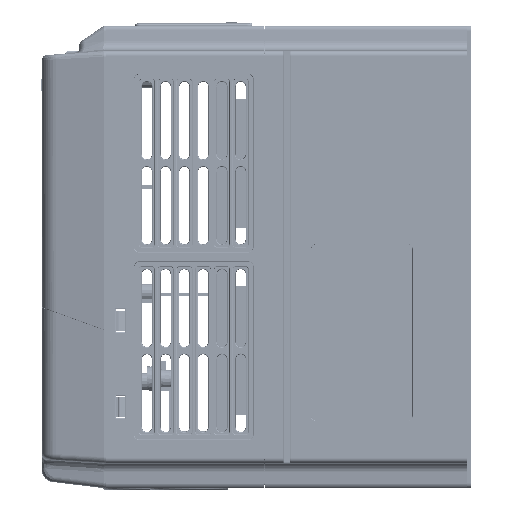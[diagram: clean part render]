
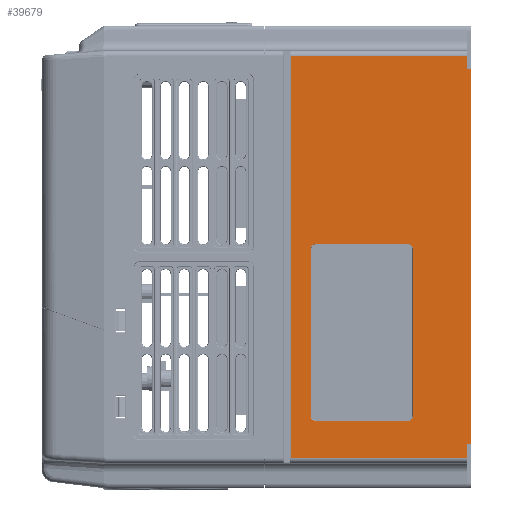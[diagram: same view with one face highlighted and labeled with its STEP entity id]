
A CAD part, left-side view. The second image highlights one B-rep face of the part: STEP entity #39679.
In plain terms, the highlighted planar face has unit normal (-1, 0, 0).
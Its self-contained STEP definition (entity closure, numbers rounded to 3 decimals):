
#11928=DIRECTION('',(0.,-1.,0.));
#11929=VECTOR('',#11928,70.7);
#11930=CARTESIAN_POINT('',(-59.,60.7,-80.5));
#11931=LINE('',#11930,#11929);
#12053=DIRECTION('',(0.,-1.,0.));
#12054=VECTOR('',#12053,36.5);
#12055=CARTESIAN_POINT('',(-59.,50.5,-65.7));
#12056=LINE('',#12055,#12054);
#12060=CARTESIAN_POINT('',(-59.,14.,-63.5));
#12061=DIRECTION('',(-1.,0.,0.));
#12062=DIRECTION('',(0.,0.,-1.));
#12063=AXIS2_PLACEMENT_3D('',#12060,#12061,#12062);
#12068=DIRECTION('',(0.,0.,1.));
#12069=VECTOR('',#12068,66.5);
#12070=CARTESIAN_POINT('',(-59.,11.8,-63.5));
#12071=LINE('',#12070,#12069);
#12075=CARTESIAN_POINT('',(-59.,14.,3.));
#12076=DIRECTION('',(-1.,0.,0.));
#12077=DIRECTION('',(0.,-1.,0.));
#12078=AXIS2_PLACEMENT_3D('',#12075,#12076,#12077);
#12083=DIRECTION('',(0.,1.,0.));
#12084=VECTOR('',#12083,36.5);
#12085=CARTESIAN_POINT('',(-59.,14.,5.2));
#12086=LINE('',#12085,#12084);
#12090=CARTESIAN_POINT('',(-59.,50.5,3.));
#12091=DIRECTION('',(-1.,0.,0.));
#12092=DIRECTION('',(0.,0.,1.));
#12093=AXIS2_PLACEMENT_3D('',#12090,#12091,#12092);
#12098=DIRECTION('',(0.,0.,-1.));
#12099=VECTOR('',#12098,66.5);
#12100=CARTESIAN_POINT('',(-59.,52.7,3.));
#12101=LINE('',#12100,#12099);
#12105=CARTESIAN_POINT('',(-59.,50.5,-63.5));
#12106=DIRECTION('',(-1.,0.,0.));
#12107=DIRECTION('',(0.,1.,0.));
#12108=AXIS2_PLACEMENT_3D('',#12105,#12106,#12107);
#12113=DIRECTION('',(0.,0.,-1.));
#12114=VECTOR('',#12113,161.);
#12115=CARTESIAN_POINT('',(-59.,60.7,80.5));
#12116=LINE('',#12115,#12114);
#12120=DIRECTION('',(0.,-1.,0.));
#12121=VECTOR('',#12120,70.7);
#12122=CARTESIAN_POINT('',(-59.,60.7,80.5));
#12123=LINE('',#12122,#12121);
#12127=DIRECTION('',(0.,-1.,0.));
#12128=VECTOR('',#12127,1.6);
#12129=CARTESIAN_POINT('',(-59.,-10.,75.));
#12130=LINE('',#12129,#12128);
#12389=DIRECTION('',(0.,-1.,0.));
#12390=VECTOR('',#12389,1.6);
#12391=CARTESIAN_POINT('',(-59.,-10.,-75.));
#12392=LINE('',#12391,#12390);
#12586=DIRECTION('',(0.,0.,-1.));
#12587=VECTOR('',#12586,5.5);
#12588=CARTESIAN_POINT('',(-59.,-10.,-75.));
#12589=LINE('',#12588,#12587);
#12664=DIRECTION('',(0.,0.,-1.));
#12665=VECTOR('',#12664,5.5);
#12666=CARTESIAN_POINT('',(-59.,-10.,80.5));
#12667=LINE('',#12666,#12665);
#21748=DIRECTION('',(0.,0.,-1.));
#21749=VECTOR('',#21748,150.);
#21750=CARTESIAN_POINT('',(-59.,-11.6,75.));
#21751=LINE('',#21750,#21749);
#24219=CARTESIAN_POINT('',(-59.,60.7,80.5));
#24220=CARTESIAN_POINT('',(-59.,60.7,-80.5));
#24221=VERTEX_POINT('',#24219);
#24222=VERTEX_POINT('',#24220);
#24831=CARTESIAN_POINT('',(-59.,50.5,-65.7));
#24832=CARTESIAN_POINT('',(-59.,14.,-65.7));
#24833=VERTEX_POINT('',#24831);
#24834=VERTEX_POINT('',#24832);
#24837=CARTESIAN_POINT('',(-59.,11.8,-63.5));
#24838=VERTEX_POINT('',#24837);
#24841=CARTESIAN_POINT('',(-59.,11.8,3.));
#24842=VERTEX_POINT('',#24841);
#24845=CARTESIAN_POINT('',(-59.,14.,5.2));
#24846=VERTEX_POINT('',#24845);
#24849=CARTESIAN_POINT('',(-59.,50.5,5.2));
#24850=VERTEX_POINT('',#24849);
#24853=CARTESIAN_POINT('',(-59.,52.7,3.));
#24854=VERTEX_POINT('',#24853);
#24857=CARTESIAN_POINT('',(-59.,52.7,-63.5));
#24858=VERTEX_POINT('',#24857);
#26217=CARTESIAN_POINT('',(-59.,-11.6,75.));
#26218=CARTESIAN_POINT('',(-59.,-11.6,-75.));
#26219=VERTEX_POINT('',#26217);
#26220=VERTEX_POINT('',#26218);
#26271=CARTESIAN_POINT('',(-59.,-10.,80.5));
#26272=VERTEX_POINT('',#26271);
#26273=CARTESIAN_POINT('',(-59.,-10.,-80.5));
#26275=VERTEX_POINT('',#26273);
#26325=CARTESIAN_POINT('',(-59.,-10.,-75.));
#26327=VERTEX_POINT('',#26325);
#26330=CARTESIAN_POINT('',(-59.,-10.,75.));
#26332=VERTEX_POINT('',#26330);
#39641=CARTESIAN_POINT('',(-59.,0.,-92.5));
#39642=DIRECTION('',(-1.,0.,0.));
#39643=DIRECTION('',(0.,0.,1.));
#39644=AXIS2_PLACEMENT_3D('',#39641,#39642,#39643);
#39645=PLANE('',#39644);
#39647=ORIENTED_EDGE('',*,*,#39646,.F.);
#39649=ORIENTED_EDGE('',*,*,#39648,.T.);
#39650=ORIENTED_EDGE('',*,*,#39477,.F.);
#39651=ORIENTED_EDGE('',*,*,#39605,.F.);
#39652=ORIENTED_EDGE('',*,*,#27840,.T.);
#39654=ORIENTED_EDGE('',*,*,#39653,.T.);
#39656=ORIENTED_EDGE('',*,*,#39655,.T.);
#39658=ORIENTED_EDGE('',*,*,#39657,.T.);
#39659=EDGE_LOOP('',(#39647,#39649,#39650,#39651,#39652,#39654,#39656,#39658));
#39660=FACE_OUTER_BOUND('',#39659,.F.);
#39662=ORIENTED_EDGE('',*,*,#39661,.T.);
#39664=ORIENTED_EDGE('',*,*,#39663,.T.);
#39666=ORIENTED_EDGE('',*,*,#39665,.T.);
#39668=ORIENTED_EDGE('',*,*,#39667,.T.);
#39670=ORIENTED_EDGE('',*,*,#39669,.T.);
#39672=ORIENTED_EDGE('',*,*,#39671,.T.);
#39674=ORIENTED_EDGE('',*,*,#39673,.T.);
#39676=ORIENTED_EDGE('',*,*,#39675,.T.);
#39677=EDGE_LOOP('',(#39662,#39664,#39666,#39668,#39670,#39672,#39674,#39676));
#39678=FACE_BOUND('',#39677,.F.);
#39679=ADVANCED_FACE('',(#39660,#39678),#39645,.T.);
#12064=CIRCLE('',#12063,2.2);
#12079=CIRCLE('',#12078,2.2);
#12094=CIRCLE('',#12093,2.2);
#12109=CIRCLE('',#12108,2.2);
#27840=EDGE_CURVE('',#24221,#26272,#12123,.T.);
#39477=EDGE_CURVE('',#24222,#26275,#11931,.T.);
#39605=EDGE_CURVE('',#24221,#24222,#12116,.T.);
#39646=EDGE_CURVE('',#26327,#26220,#12392,.T.);
#39648=EDGE_CURVE('',#26327,#26275,#12589,.T.);
#39653=EDGE_CURVE('',#26272,#26332,#12667,.T.);
#39655=EDGE_CURVE('',#26332,#26219,#12130,.T.);
#39657=EDGE_CURVE('',#26219,#26220,#21751,.T.);
#39661=EDGE_CURVE('',#24833,#24834,#12056,.T.);
#39663=EDGE_CURVE('',#24834,#24838,#12064,.T.);
#39665=EDGE_CURVE('',#24838,#24842,#12071,.T.);
#39667=EDGE_CURVE('',#24842,#24846,#12079,.T.);
#39669=EDGE_CURVE('',#24846,#24850,#12086,.T.);
#39671=EDGE_CURVE('',#24850,#24854,#12094,.T.);
#39673=EDGE_CURVE('',#24854,#24858,#12101,.T.);
#39675=EDGE_CURVE('',#24858,#24833,#12109,.T.);
